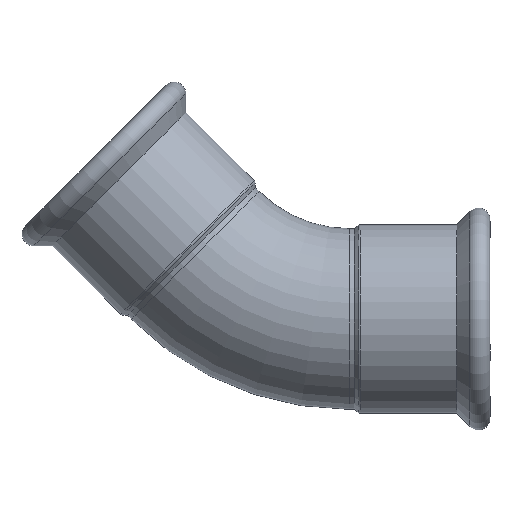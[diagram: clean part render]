
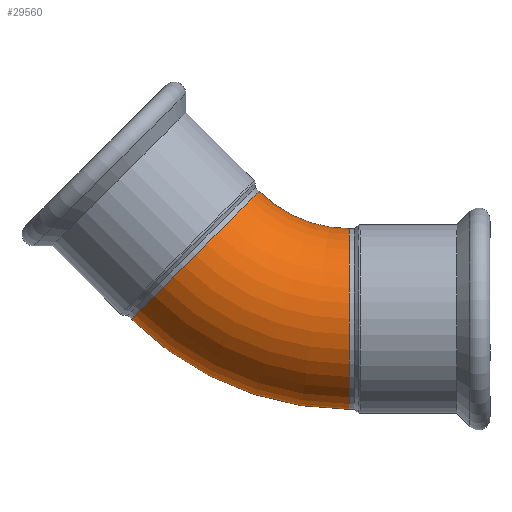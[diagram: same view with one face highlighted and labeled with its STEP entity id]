
A CAD part, top view. The second image highlights one B-rep face of the part: STEP entity #29560.
In plain terms, the highlighted toroidal (fillet/blend) face has major radius 130 mm and minor radius 54 mm.
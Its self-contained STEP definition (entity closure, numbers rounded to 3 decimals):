
#13630=CARTESIAN_POINT('',(0.848,-54.,0.)
);
#13640=VERTEX_POINT('',#13630);
#13720=CARTESIAN_POINT('',(0.848,54.,0.));
#13730=VERTEX_POINT('',#13720);
#13860=CARTESIAN_POINT('',(0.848,-130.,0.));
#13870=DIRECTION('',(0.,0.,1.));
#13880=DIRECTION('',(0.,1.,0.));
#13890=AXIS2_PLACEMENT_3D('',#13860,#13870,#13880);
#13900=TOROIDAL_SURFACE('',#13890,130.,54.);
#13910=CARTESIAN_POINT('',(0.848,-130.,0.
));
#13920=DIRECTION('',(0.,0.,1.));
#13930=DIRECTION('',(0.,1.,0.));
#13940=AXIS2_PLACEMENT_3D('',#13910,#13920,#13930);
#13950=CIRCLE('',#13940,76.);
#13960=CARTESIAN_POINT('',(-52.892,-76.26,
0.));
#13970=VERTEX_POINT('',#13960);
#13980=EDGE_CURVE('',#13640,#13970,#13950,.T.);
#14010=CARTESIAN_POINT('',(0.848,-130.,0.
));
#14020=DIRECTION('',(0.,0.,1.));
#14030=DIRECTION('',(0.,1.,0.));
#14040=AXIS2_PLACEMENT_3D('',#14010,#14020,#14030);
#14050=CIRCLE('',#14040,184.);
#14060=CARTESIAN_POINT('',(-129.26,0.108,
0.));
#14070=VERTEX_POINT('',#14060);
#14080=EDGE_CURVE('',#13730,#14070,#14050,.T.);
#14100=CARTESIAN_POINT('',(-91.076,-38.076,0.));
#14110=DIRECTION('',(0.707,0.707,0.));
#14120=DIRECTION('',(-0.707,0.707,0.));
#14130=AXIS2_PLACEMENT_3D('',#14100,#14110,#14120);
#14140=CIRCLE('',#14130,54.);
#28500=EDGE_CURVE('',#14070,#13970,#14140,.T.);
#29440=CARTESIAN_POINT('',(0.848,0.,0.));
#29450=DIRECTION('',(-1.,0.,0.));
#29460=DIRECTION('',(0.,1.,0.));
#29470=AXIS2_PLACEMENT_3D('',#29440,#29450,#29460);
#29480=CIRCLE('',#29470,54.);
#29490=EDGE_CURVE('',#13640,#13730,#29480,.T.);
#29500=ORIENTED_EDGE('',*,*,#29490,.T.);
#29510=ORIENTED_EDGE('',*,*,#13980,.F.);
#29520=ORIENTED_EDGE('',*,*,#28500,.T.);
#29530=ORIENTED_EDGE('',*,*,#14080,.T.);
#29540=EDGE_LOOP('',(#29530,#29520,#29510,#29500));
#29550=FACE_OUTER_BOUND('',#29540,.T.);
#29560=ADVANCED_FACE('',(#29550),#13900,.T.);
